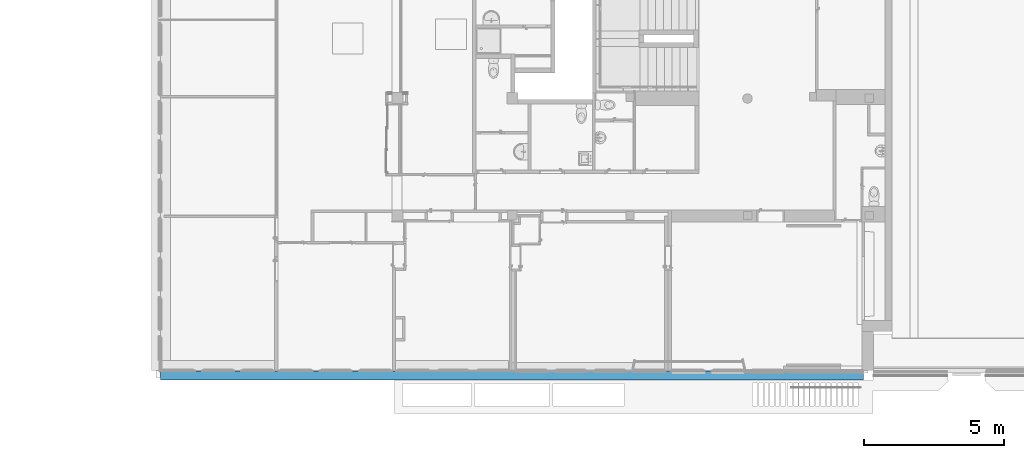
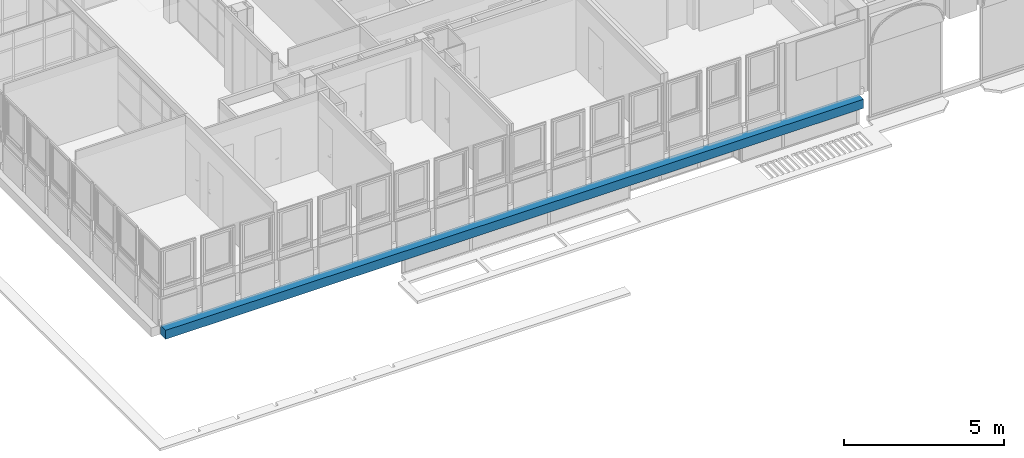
# One storey, part 4 of 97: 1 beam.
"""IFC4 building model written with IfcOpenShell, lengths in metres."""

from ifc_helpers import new_model, entity, si_unit, converted_unit, derived_unit, direction, frame, origin, place, context, subcontext, project, spatial, indexed_curve, outline, extrude, source, transform, mapped, material, type_object, type_shapes, element, save


model = new_model("IFC4")

# Units and contexts
model_context = context("Model", 3, precision=1e-05, world=origin(), true_north=direction((6.12303176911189e-17, 1.0)))
body_context = subcontext(model_context, "Body", "Model", "MODEL_VIEW")
ifc_project = project(units=[si_unit("LENGTHUNIT", "METRE"), si_unit("AREAUNIT", "SQUARE_METRE"), si_unit("VOLUMEUNIT", "CUBIC_METRE"), converted_unit("PLANEANGLEUNIT", "DEGREE", entity("IfcRatioMeasure", 0.0174532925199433), si_unit("PLANEANGLEUNIT", "RADIAN"), dimensions=[0, 0, 0, 0, 0, 0, 0]), si_unit("MASSUNIT", "GRAM", prefix="KILO"), derived_unit("MASSDENSITYUNIT", [(si_unit("MASSUNIT", "GRAM", prefix="KILO"), 1), (si_unit("LENGTHUNIT", "METRE"), -3)]), derived_unit("MOMENTOFINERTIAUNIT", [(si_unit("LENGTHUNIT", "METRE"), 4)]), si_unit("TIMEUNIT", "SECOND"), si_unit("FREQUENCYUNIT", "HERTZ"), si_unit("THERMODYNAMICTEMPERATUREUNIT", "DEGREE_CELSIUS"), derived_unit("THERMALTRANSMITTANCEUNIT", [(si_unit("MASSUNIT", "GRAM", prefix="KILO"), 1), (si_unit("THERMODYNAMICTEMPERATUREUNIT", "KELVIN"), -1), (si_unit("TIMEUNIT", "SECOND"), -3)]), derived_unit("VOLUMETRICFLOWRATEUNIT", [(si_unit("LENGTHUNIT", "METRE"), 3), (si_unit("TIMEUNIT", "SECOND"), -1)]), si_unit("ELECTRICCURRENTUNIT", "AMPERE"), si_unit("ELECTRICVOLTAGEUNIT", "VOLT"), si_unit("POWERUNIT", "WATT"), si_unit("FORCEUNIT", "NEWTON", prefix="KILO"), si_unit("ILLUMINANCEUNIT", "LUX"), si_unit("LUMINOUSFLUXUNIT", "LUMEN"), si_unit("LUMINOUSINTENSITYUNIT", "CANDELA"), derived_unit("USERDEFINED", [(si_unit("MASSUNIT", "GRAM", prefix="KILO"), -1), (si_unit("LENGTHUNIT", "METRE"), -2), (si_unit("TIMEUNIT", "SECOND"), 3), (si_unit("LUMINOUSFLUXUNIT", "LUMEN"), 1)]), derived_unit("LINEARVELOCITYUNIT", [(si_unit("LENGTHUNIT", "METRE"), 1), (si_unit("TIMEUNIT", "SECOND"), -1)]), si_unit("PRESSUREUNIT", "PASCAL"), derived_unit("USERDEFINED", [(si_unit("LENGTHUNIT", "METRE"), -2), (si_unit("MASSUNIT", "GRAM", prefix="KILO"), 1), (si_unit("TIMEUNIT", "SECOND"), -2)]), derived_unit("LINEARFORCEUNIT", [(si_unit("MASSUNIT", "GRAM", prefix="KILO"), 1), (si_unit("LENGTHUNIT", "METRE"), 1), (si_unit("TIMEUNIT", "SECOND"), -2), (si_unit("LENGTHUNIT", "METRE"), -1)]), derived_unit("PLANARFORCEUNIT", [(si_unit("MASSUNIT", "GRAM", prefix="KILO"), 1), (si_unit("LENGTHUNIT", "METRE"), 1), (si_unit("TIMEUNIT", "SECOND"), -2), (si_unit("LENGTHUNIT", "METRE"), -2)])], contexts=[model_context])

# Site, building, storey
site_placement = place(None, origin())
site = spatial("IfcSite", under=ifc_project, at=site_placement, Name="Default", CompositionType="ELEMENT")
building_placement = place(site_placement, origin())
building = spatial("IfcBuilding", under=site, at=building_placement, Name="HOTEL CONSULAIRE BOULOGNE SUR MER", CompositionType="ELEMENT")
storey_placement = place(building_placement, frame((0.0, 0.0, 3.62152697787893)))
storey = spatial("IfcBuildingStorey", under=building, at=storey_placement, Name="Niveau 1", CompositionType="ELEMENT", Elevation=3.62152697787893)

# Beam
ifc_material = material(Name="Béton - Béton coulé sur place", Category="Béton")
beam_type = type_object("IfcBeamType", Name="Poutre rectangulaire - Béton:320x340", PredefinedType="BEAM", material=ifc_material)
shared_shape = source(origin(), body_context, "Body", "SweptSolid", [
    extrude(outline(indexed_curve([(-0.254899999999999, -14.5879642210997), (0.0851000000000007, -14.5879642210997), (0.0851000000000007, 1.86765474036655), (0.0846999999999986, 1.86765474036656), (0.0846999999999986, 2.20765474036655), (0.0851000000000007, 2.20765474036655), (0.0851000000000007, 10.5126547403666), (-0.254899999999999, 10.5126547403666), (-0.254899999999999, -14.5879642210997)], self_intersect=False)), frame((10.5126547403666, 0.0, 0.0851000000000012), z_axis=(0.0, 1.0, 0.0), x_axis=(0.0, 0.0, -1.0)), (0.0, 0.0, 1.0), 0.320000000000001),
])
type_shapes(beam_type, [shared_shape])
beam_placement = place(storey_placement, frame((-13.7939806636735, -29.8840671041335, -0.570400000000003)))
element("IfcBeam", 1, at=beam_placement, inside=storey, type_object=beam_type, material=ifc_material, Name="Poutre rectangulaire - Béton:320x340", ObjectType="Poutre rectangulaire - Béton:320x340", PredefinedType="BEAM", context=body_context, shape_type="MappedRepresentation", body=[
    mapped(shared_shape, transform((0.0, 0.0, 0.0), scale=1.0)),
])

save(model, "model.ifc")
